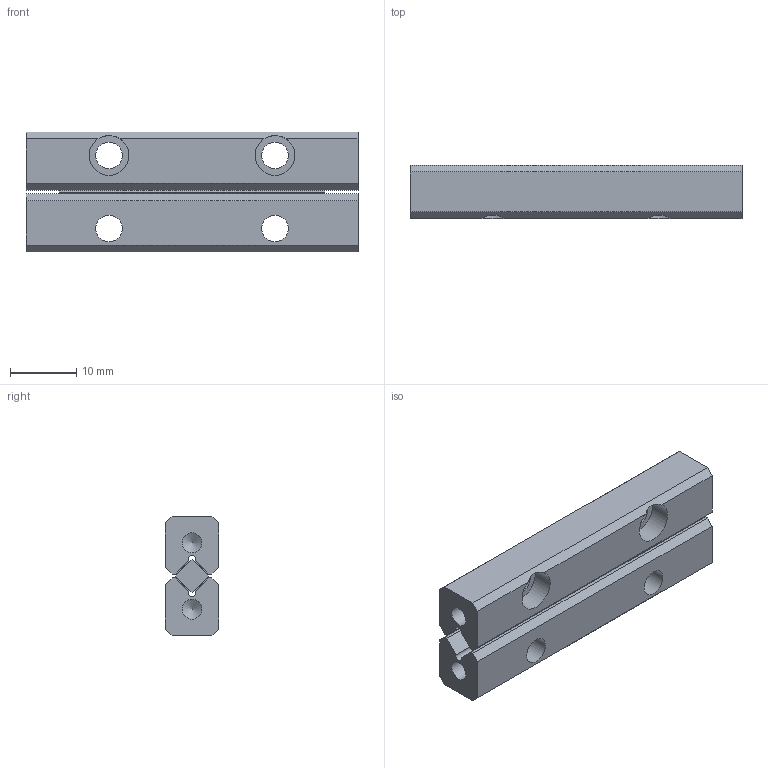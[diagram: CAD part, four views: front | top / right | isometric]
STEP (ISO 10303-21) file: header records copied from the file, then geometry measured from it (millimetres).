
FILE_DESCRIPTION((''),'2;1');
FILE_NAME('D:\製品 (図面)\カタログ用3D\リニアガイド関連\STEP形式\ACS3\ACS3050.stp','2010-07-29T15:24:29',('Tsuchiya'),(''),'Autodesk Inventor 10','Autodesk Inventor 10','');
FILE_SCHEMA(('AUTOMOTIVE_DESIGN { 1 0 10303 214 1 1 1 1 }'));
Length unit declared in the file: millimetre
Products named in the file (4): ACS3050; ACS30501; ACS30502; ACS30503
Assembly tree (3 placements, depth 2):
  ACS3050
    ACS30501
    ACS30502
    ACS30503
Bounding box: 50 x 8 x 18 mm (x, y, z)
Volume: 5868.2 mm3; surface area: 4903.7 mm2
Topology: 3 solids, 3 shells, 74 faces, 190 edges, 126 vertices
Faces by surface type: plane 52, bspline 16, cylinder 4, cone 2
Full cylindrical faces by diameter (mm): 3 x2
Entity records: 2335 total; most frequent: CARTESIAN_POINT 577, ORIENTED_EDGE 328, DIRECTION 326, EDGE_CURVE 164, VECTOR 132, LINE 132, VERTEX_POINT 116, EDGE_LOOP 102
